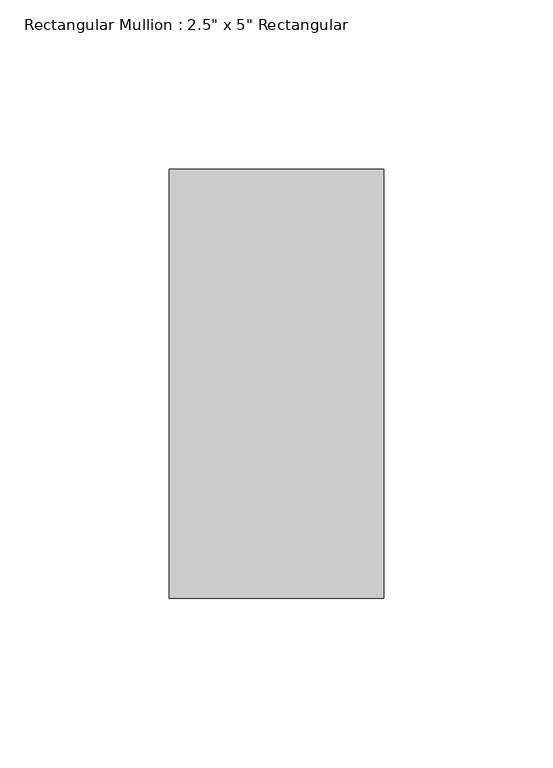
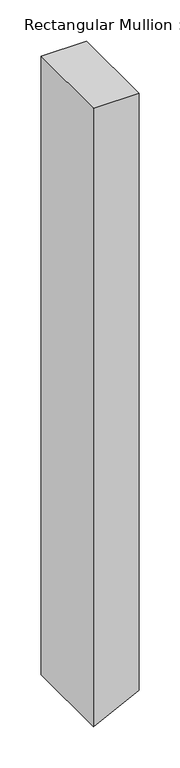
"""IFC4 building model written with IfcOpenShell, lengths in millimetres: member geometry."""

import ifcopenshell
import ifcopenshell.guid

model = None  # the IFC model being written
_history = None  # IfcOwnerHistory: only IFC2X3 demands one
_inside = {}  # id of a spatial element -> (the spatial element, [elements in it])
_under = {}  # id of a project, library or spatial element -> (it, [spatial elements below it])
_declared = {}  # id of a project -> (the project, [libraries it declares])
_typed = {}  # id of a type object -> (the type object, [elements of that type])
_made_of = {}  # id of a material, layer set ... -> (it, [elements and type objects made of it])


def new_model(schema):
    """Start an empty IFC model of exactly this schema.

    Asked for "IFC4X3", IfcOpenShell would pick the latest addendum, in which some entities
    have other attributes; the version numbers below select the first issue.
    IFC2X3 requires an IfcOwnerHistory on every rooted entity: one is made here for all.
    """
    global model, _history
    if schema == "IFC4X3":
        model = ifcopenshell.file(schema_version=(4, 3, 0, 0))
    else:
        model = ifcopenshell.file(schema=schema)
    _inside.clear()
    _under.clear()
    _declared.clear()
    _typed.clear()
    _made_of.clear()
    _history = None
    if model.schema == "IFC2X3":
        org = make("IfcOrganization", Name="unknown")
        user = make(
            "IfcPersonAndOrganization",
            ThePerson=make("IfcPerson", FamilyName="unknown"),
            TheOrganization=org,
        )
        app = make(
            "IfcApplication",
            ApplicationDeveloper=org,
            Version="unknown",
            ApplicationFullName="unknown",
            ApplicationIdentifier="unknown",
        )
        _history = make(
            "IfcOwnerHistory",
            OwningUser=user,
            OwningApplication=app,
            ChangeAction="ADDED",
            CreationDate=0,
        )
    return model


def make(cls, **values):
    """One entity of the class cls with the attributes given. An attribute that is None is left unset."""
    return model.create_entity(
        cls, **{name: value for name, value in values.items() if value is not None}
    )


def rooted(cls, **values):
    """An entity with a GlobalId (a new one), such as an element, a storey or a relation."""
    return make(cls, GlobalId=ifcopenshell.guid.new(), OwnerHistory=_history, **values)


def si_unit(unit_type, name, prefix=None):
    """IfcSIUnit, for example si_unit("LENGTHUNIT", "METRE", prefix="MILLI")."""
    return make("IfcSIUnit", UnitType=unit_type, Prefix=prefix, Name=name)


def assignment(units):
    """IfcUnitAssignment: the units of a project."""
    return None if units is None else make("IfcUnitAssignment", Units=units)


def point(xyz):
    """IfcCartesianPoint."""
    return None if xyz is None else make("IfcCartesianPoint", Coordinates=xyz)


def direction(xyz):
    """IfcDirection."""
    return None if xyz is None else make("IfcDirection", DirectionRatios=xyz)


def frame(location, z_axis=None, x_axis=None):
    """IfcAxis2Placement3D, a coordinate frame: its origin and axes. An axis left out is left unset."""
    return make(
        "IfcAxis2Placement3D",
        Location=point(location),
        Axis=direction(z_axis),
        RefDirection=direction(x_axis),
    )


def origin():
    """The frame at (0, 0, 0) with its axes left unset."""
    return frame((0.0, 0.0, 0.0))


def place(relative_to, where):
    """IfcLocalPlacement: puts the frame where relative to a parent placement (None: the world)."""
    return make(
        "IfcLocalPlacement", PlacementRelTo=relative_to, RelativePlacement=where
    )


def context(
    kind, dimensions, precision=None, world=None, true_north=None, identifier=None
):
    """IfcGeometricRepresentationContext, for example the 3D "Model" context."""
    return make(
        "IfcGeometricRepresentationContext",
        ContextIdentifier=identifier,
        ContextType=kind,
        CoordinateSpaceDimension=dimensions,
        Precision=precision,
        WorldCoordinateSystem=world,
        TrueNorth=true_north,
    )


def project(units=None, contexts=None):
    """IfcProject with its units and contexts."""
    return rooted(
        "IfcProject",
        Name="project",
        RepresentationContexts=contexts,
        UnitsInContext=assignment(units),
    )


def spatial(cls, under=None, at=None, **own):
    """A site, building, storey or space (cls), placed at a placement, below another one or the project."""
    s = rooted(cls, ObjectPlacement=at, **own)
    if under is not None:
        _under.setdefault(under.id(), (under, []))[1].append(s)
    return s


def polyline(points):
    """IfcPolyline through the points."""
    return make("IfcPolyline", Points=[point(p) for p in points])


def outline(outer, holes=None, kind="AREA"):
    """IfcArbitraryClosedProfileDef: a profile drawn as a closed curve; with holes, ...WithVoids."""
    if holes is None:
        return make("IfcArbitraryClosedProfileDef", ProfileType=kind, OuterCurve=outer)
    return make(
        "IfcArbitraryProfileDefWithVoids",
        ProfileType=kind,
        OuterCurve=outer,
        InnerCurves=holes,
    )


def extrude(swept, where, along, depth):
    """IfcExtrudedAreaSolid: the profile swept, set in the frame where, extruded along a direction by depth."""
    return make(
        "IfcExtrudedAreaSolid",
        SweptArea=swept,
        Position=where,
        ExtrudedDirection=direction(along),
        Depth=depth,
    )


def shape(context_of_items, identifier, shape_type, items):
    """IfcShapeRepresentation: the items that make up one representation, for example the "Body"."""
    return make(
        "IfcShapeRepresentation",
        ContextOfItems=context_of_items,
        RepresentationIdentifier=identifier,
        RepresentationType=shape_type,
        Items=items,
    )


def source(mapping_origin, context_of_items, identifier, shape_type, items):
    """IfcRepresentationMap: a shape defined once, which mapped items show again and again."""
    return make(
        "IfcRepresentationMap",
        MappingOrigin=mapping_origin,
        MappedRepresentation=shape(context_of_items, identifier, shape_type, items),
    )


def transform(
    local_origin,
    x_axis=None,
    y_axis=None,
    z_axis=None,
    scale=None,
    scale2=None,
    scale3=None,
    uniform=True,
):
    """IfcCartesianTransformationOperator3D, or its non-uniform kind. x_axis, y_axis, z_axis: its Axis1, 2, 3."""
    if uniform:
        return make(
            "IfcCartesianTransformationOperator3D",
            Axis1=direction(x_axis),
            Axis2=direction(y_axis),
            LocalOrigin=point(local_origin),
            Scale=scale,
            Axis3=direction(z_axis),
        )
    return make(
        "IfcCartesianTransformationOperator3DnonUniform",
        Axis1=direction(x_axis),
        Axis2=direction(y_axis),
        LocalOrigin=point(local_origin),
        Scale=scale,
        Axis3=direction(z_axis),
        Scale2=scale2,
        Scale3=scale3,
    )


def mapped(mapping_source, mapping_target):
    """IfcMappedItem: shows the shape of a source again, moved by a transform."""
    return make(
        "IfcMappedItem", MappingSource=mapping_source, MappingTarget=mapping_target
    )


def made_of(thing, what):
    """Note that an element or type object is made of a material, layer set ...; save() writes the relation."""
    if what is not None:
        _made_of.setdefault(what.id(), (what, []))[1].append(thing)
    return thing


def element(
    cls,
    number,
    at=None,
    inside=None,
    cuts=None,
    type_object=None,
    material=None,
    context=None,
    identifier="Body",
    shape_type=None,
    held_by="IfcProductDefinitionShape",
    body=None,
    shapes=None,
    **own,
):
    """One element of the class cls, such as IfcWall. Its Tag is "e" and its number.

    at: its placement. inside: the storey or other place that contains it. cuts: it is an
    opening in that element (IfcRelVoidsElement). A single representation is given by context,
    identifier, shape_type and body (its items); several are given by shapes. held_by: the class
    of the entity that holds the representations. save() writes the other relations.
    """
    e = rooted(cls, Tag="e%d" % number, ObjectPlacement=at, **own)
    if body is not None:
        shapes = [shape(context, identifier, shape_type, body)]
    if shapes is not None:
        e.Representation = make(held_by, Representations=shapes)
    if inside is not None:
        _inside.setdefault(inside.id(), (inside, []))[1].append(e)
    if cuts is not None:
        rooted(
            "IfcRelVoidsElement", RelatingBuildingElement=cuts, RelatedOpeningElement=e
        )
    if type_object is not None:
        _typed.setdefault(type_object.id(), (type_object, []))[1].append(e)
    return made_of(e, material)


def aggregate(whole, parts):
    """IfcRelAggregates: a whole, such as a stair, and the parts it consists of."""
    return rooted("IfcRelAggregates", RelatingObject=whole, RelatedObjects=parts)


def save(model, path):
    """Write the relations noted so far, then the file.

    IfcRelAggregates (storeys below a building ...), IfcRelContainedInSpatialStructure (elements
    in a storey), IfcRelDefinesByType, IfcRelAssociatesMaterial and IfcRelDeclares: one each for
    every whole, place, type object, material and project.
    """
    for whole, parts in _under.values():
        aggregate(whole, parts)
    for where, things in _inside.values():
        rooted(
            "IfcRelContainedInSpatialStructure",
            RelatedElements=things,
            RelatingStructure=where,
        )
    for kind, things in _typed.values():
        rooted("IfcRelDefinesByType", RelatedObjects=things, RelatingType=kind)
    for what, things in _made_of.values():
        rooted("IfcRelAssociatesMaterial", RelatedObjects=things, RelatingMaterial=what)
    for by, libraries in _declared.values():
        rooted("IfcRelDeclares", RelatingContext=by, RelatedDefinitions=libraries)
    model.write(path)


def member_07edb973(model_context):
    return source(origin(), model_context, "Body", "SweptSolid", [
        extrude(outline(polyline([(0.0, 31.75), (0.0, -31.75), (-914.3460429, -31.75), (-912.6700745, -28.3980633), (-882.5960429, 31.75), (0.0, 31.75)])), frame((0.0, -63.5, 0.0), z_axis=(0.0, 1.0, 0.0), x_axis=(0.0, 0.0, 1.0)), (0.0, 0.0, 1.0), 127.0),
    ])


if __name__ == "__main__":
    model = new_model("IFC4")
    model_context = context("Model", 3, world=origin())
    ifc_project = project(units=[si_unit("LENGTHUNIT", "METRE", prefix="MILLI")], contexts=[model_context])
    site = spatial("IfcSite", under=ifc_project)
    building = spatial("IfcBuilding", under=site)
    placement = place(None, origin())
    member_shape = member_07edb973(model_context)
    element("IfcMember", 1, ObjectType="Rectangular Mullion : 2.5\" x 5\" Rectangular", at=placement, inside=building, context=model_context, shape_type="MappedRepresentation", body=[
        mapped(member_shape, transform((0.0, 0.0, 0.0), x_axis=(1.0, 0.0, 0.0), y_axis=(0.0, 1.0, 0.0), z_axis=(0.0, 0.0, 1.0))),
    ])
    save(model, "model.ifc")
